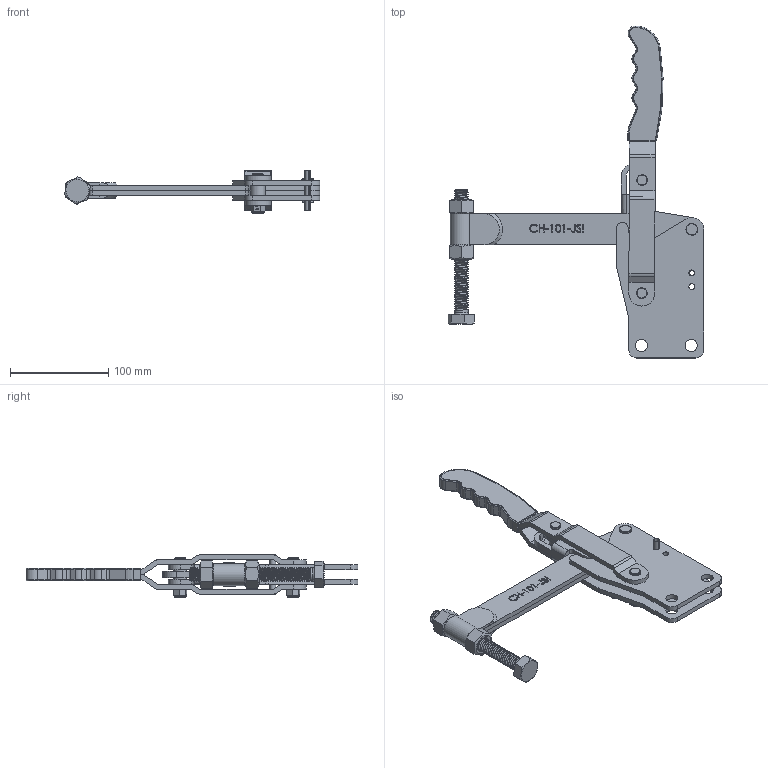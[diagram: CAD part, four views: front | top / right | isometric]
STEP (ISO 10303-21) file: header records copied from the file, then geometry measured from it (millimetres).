
FILE_DESCRIPTION(/* description */ ('STEP AP203'),/* implementation_level */ '2;1');
FILE_NAME(/* name */ 'D:\Vault_2016\Projekty\NASZ KATALOG\CLAMPTEK\STRONA\Vertical toggle clamp\CH-101-JSI\CH-101-JSI_ZAMKNIETY.stp',/* time_stamp */ '2019-01-18T14:23:56+01:00',/* author */ ('CADENGINEERING4'),/* organization */ ('Î¢ÈíÖÐ¹ú'),/* preprocessor_version */ 'ST-DEVELOPER v17.2',/* originating_system */ 'Autodesk Inventor 2019',/* authorisation */ '');
FILE_SCHEMA (('AUTOMOTIVE_DESIGN { 1 0 10303 214 3 1 1 }'));
Products named in the file (14): CH-101-JSI_ZAMKNIETY; CH-101-JSI-02 SOLID BAR_Ä¬ÈÏ_°´
¼Ó¹¤_; CH-10247-09; CH-101-J-03 HANDLE; CH-101-JSB-01 STRAIGHT BASE; CH-101-J-11; CH-101-J-06; CH-101-J-07; CH-10247-05; CH-101-J-04 CONNECTING-PLATE; 3-8-16 LOCK NUT; CH-SA-58500 SPINDLE SUPPLIED; CH-10247-08; CH-SA-58500 NUT
Assembly tree (18 placements, depth 2):
  CH-101-JSI_ZAMKNIETY
    CH-101-JSI-02 SOLID BAR_Ä¬ÈÏ_°´
¼Ó¹¤_
    CH-101-J-11  x2
    CH-10247-09
    CH-101-J-03 HANDLE
    CH-10247-08  x2
    CH-101-JSB-01 STRAIGHT BASE
    3-8-16 LOCK NUT  x2
    CH-101-J-06  x2
    CH-101-J-07
    CH-10247-05
    CH-101-J-04 CONNECTING-PLATE
    CH-SA-58500 NUT  x2
    CH-SA-58500 SPINDLE SUPPLIED
Bounding box: 260.23 x 338.42 x 43 mm (x, y, z)
Volume: 332122.2 mm3; surface area: 162817 mm2
Topology: 23 solids, 23 shells, 837 faces, 2322 edges, 1565 vertices
Faces by surface type: plane 334, cylinder 244, bspline 184, cone 46, torus 27, sphere 2
Full cylindrical faces by diameter (mm): 2.48 x1, 2.79 x1, 6 x4, 8.5 x8, 9.5 x24, 11 x2, 12 x4, 12.3 x8, 12.7 x8, 12.8 x1, 13.7 x65, 15 x1
Entity records: 63578 total; most frequent: CARTESIAN_POINT 44525, ORIENTED_EDGE 4218, DIRECTION 3264, EDGE_CURVE 2109, VERTEX_POINT 1418, LINE 1088, VECTOR 1088, AXIS2_PLACEMENT_3D 1088
